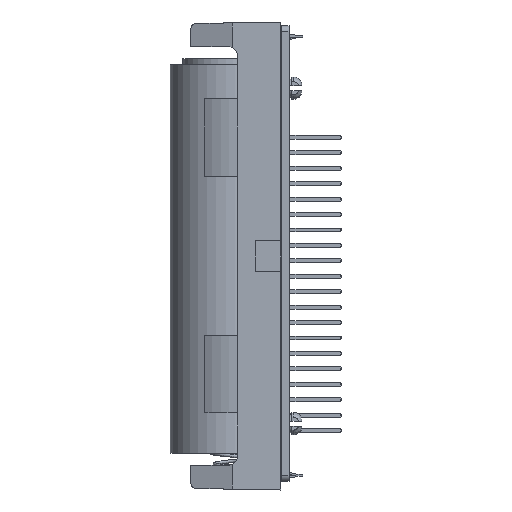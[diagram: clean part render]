
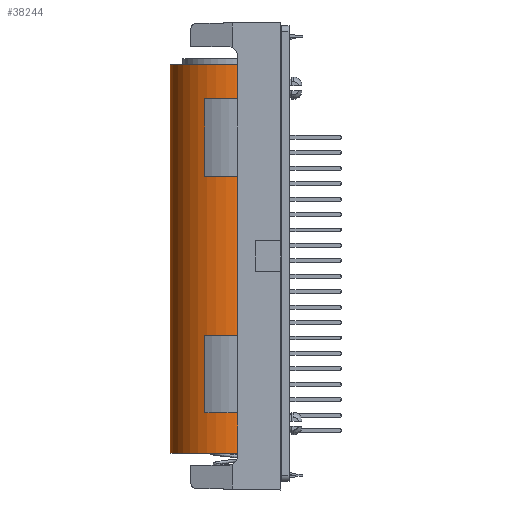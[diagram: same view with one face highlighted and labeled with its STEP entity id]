
A CAD part, left-side view. The second image highlights one B-rep face of the part: STEP entity #38244.
In plain terms, the highlighted cylindrical face has radius 9.125 mm (diameter 18.25 mm), a full revolution.
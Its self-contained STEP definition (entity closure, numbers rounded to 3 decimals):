
#6255=FACE_OUTER_BOUND('',#8481,.T.);
#8481=EDGE_LOOP('',(#36158,#36159,#36160,#36161));
#12898=LINE('',#69266,#17313);
#17313=VECTOR('',#49282,9.125);
#17660=CIRCLE('',#40507,9.125);
#17661=CIRCLE('',#40509,9.125);
#20970=VERTEX_POINT('',#69262);
#20971=VERTEX_POINT('',#69265);
#26033=EDGE_CURVE('',#20970,#20970,#17660,.T.);
#26034=EDGE_CURVE('',#20970,#20971,#12898,.T.);
#26035=EDGE_CURVE('',#20971,#20971,#17661,.T.);
#36158=ORIENTED_EDGE('',*,*,#26033,.T.);
#36159=ORIENTED_EDGE('',*,*,#26034,.T.);
#36160=ORIENTED_EDGE('',*,*,#26035,.T.);
#36161=ORIENTED_EDGE('',*,*,#26034,.F.);
#36303=CYLINDRICAL_SURFACE('',#40508,9.125);
#38244=ADVANCED_FACE('',(#6255),#36303,.T.);
#40507=AXIS2_PLACEMENT_3D('',#69263,#49278,#49279);
#40508=AXIS2_PLACEMENT_3D('',#69264,#49280,#49281);
#40509=AXIS2_PLACEMENT_3D('',#69267,#49283,#49284);
#49278=DIRECTION('center_axis',(0.,-1.,0.));
#49279=DIRECTION('ref_axis',(1.,0.,0.));
#49280=DIRECTION('center_axis',(0.,1.,0.));
#49281=DIRECTION('ref_axis',(1.,0.,0.));
#49282=DIRECTION('',(0.,-1.,0.));
#49283=DIRECTION('center_axis',(0.,1.,0.));
#49284=DIRECTION('ref_axis',(1.,0.,0.));
#69262=CARTESIAN_POINT('',(-9.125,63.95,0.));
#69263=CARTESIAN_POINT('Origin',(0.,63.95,0.));
#69264=CARTESIAN_POINT('Origin',(0.,0.,0.));
#69265=CARTESIAN_POINT('',(-9.125,0.,0.));
#69266=CARTESIAN_POINT('',(-9.125,0.,0.));
#69267=CARTESIAN_POINT('Origin',(0.,0.,0.));
